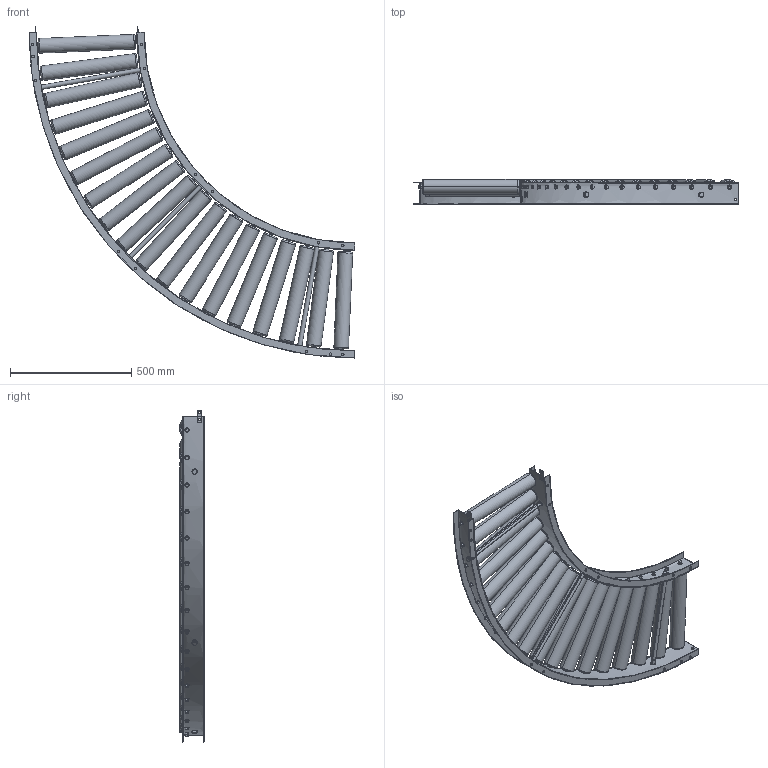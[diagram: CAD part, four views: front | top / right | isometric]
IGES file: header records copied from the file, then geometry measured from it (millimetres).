
Start section: SolidWorks IGES file using analytic representation for surfaces
Global section: file name: C:\Users\0656\Desktop\変換ツール\iges変換\RS-6015J_C.igs; native system: SolidWorks 2023; preprocessor: SolidWorks 2023; author: 0656; date: 240315.112533; units: millimetre
Bounding box: 1345 x 101.75 x 1370.08 mm (x, y, z)
Surface area: 3196744.9 mm2 (no closed solid volume)
Topology: 0 solids, 0 shells, 748 faces, 16408 edges, 16408 vertices
Faces by surface type: revolution 406, bspline 342
